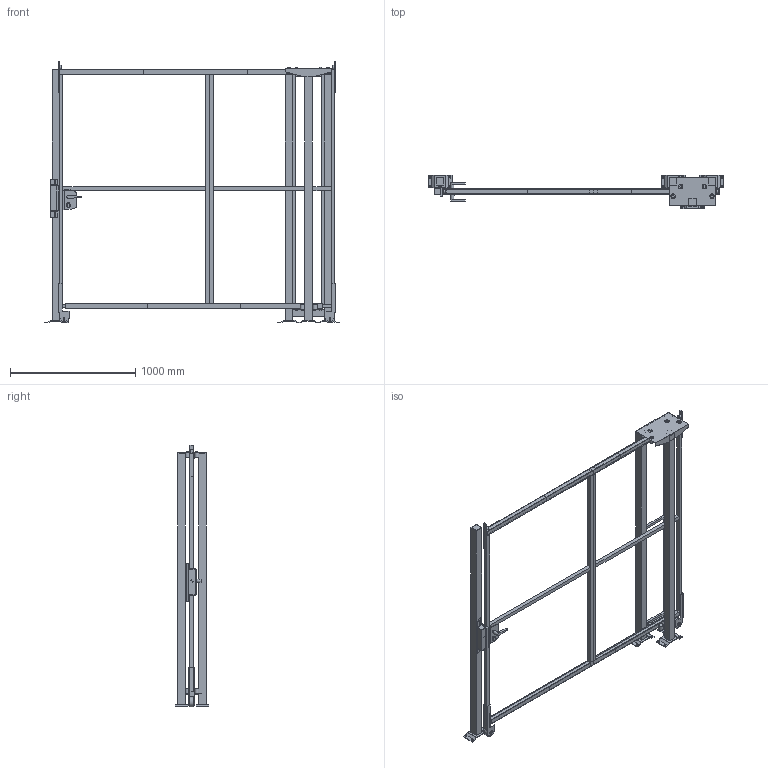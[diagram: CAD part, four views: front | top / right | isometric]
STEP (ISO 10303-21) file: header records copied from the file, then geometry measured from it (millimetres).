
FILE_DESCRIPTION(/* description */ (''),/* implementation_level */ '2;1');
FILE_NAME(/* name */ 'C:\SafeGuarding\ELABORATI\KLADKOUGAMMA_2025-03-20-13-33-56.stp',/* time_stamp */ '2025-03-20T13:34:00+01:00',/* author */ ('admin'),/* organization */ (''),/* preprocessor_version */ 'ST-DEVELOPER v18.1',/* originating_system */ 'AutoCAD Mechanical',/* authorisation */ '');
FILE_SCHEMA (('AUTOMOTIVE_DESIGN { 1 0 10303 214 3 1 1 }'));
Length unit declared in the file: millimetre
Products named in the file (5): Product; R_VFPA.REPE30.10001900; R_VFPA.REPE30.12001900; R_VFPA.REPE20.02501900; P_VFMA.V260SDU.2020
Assembly tree (7 placements, depth 2):
  Product
    R_VFPA.REPE30.10001900
    R_VFPA.REPE30.12001900
    P_VFMA.V260SDU.2020  x4
    R_VFPA.REPE20.02501900
Bounding box: 2362 x 264 x 2090.02 mm (x, y, z)
Volume: 47881157.4 mm3; surface area: 6464688.9 mm2
Topology: 68 solids, 68 shells, 608 faces, 1737 edges, 1699 vertices
Faces by surface type: plane 530, cylinder 74, bspline 4
Full cylindrical faces by diameter (mm): 9 x4, 11 x16, 13 x4, 18 x1, 25 x2, 25.398 x2, 30 x6, 36 x8, 80 x2
Entity records: 18081 total; most frequent: CARTESIAN_POINT 4684, DIRECTION 2669, ORIENTED_EDGE 2374, LINE 1217, VECTOR 1217, EDGE_CURVE 1187, VERTEX_POINT 798, AXIS2_PLACEMENT_3D 726
